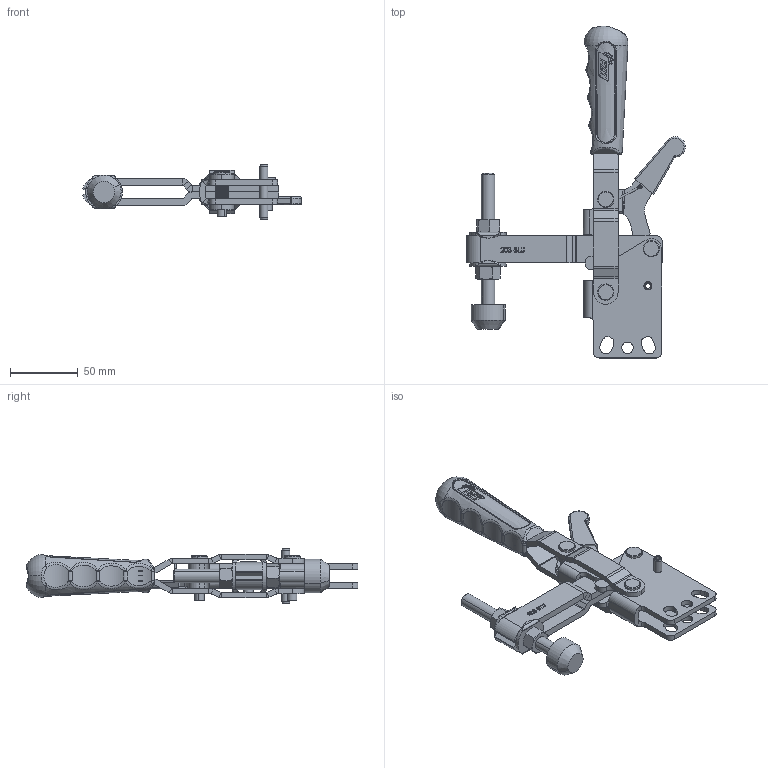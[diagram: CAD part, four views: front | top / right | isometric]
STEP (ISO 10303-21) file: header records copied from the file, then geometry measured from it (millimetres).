
FILE_DESCRIPTION (( 'STEP AP214' ), '1' );
FILE_NAME ('203_BU-K.STEP', '2024-09-09T16:32:41', ( '' ), ( '' ), 'SwSTEP 2.0', 'SolidWorks 2023', '' );
FILE_SCHEMA (( 'AUTOMOTIVE_DESIGN' ));
Length unit declared in the file: millimetre
Products named in the file (19): TTMK_03_00; YAY 203_B-K; FZK_203_B_03A_00; FZK_203_B-K_01_00; M10 PABUÇ; M10 A.K. SOMUN ; FZK_203_B_01_00_YENI; FZK_203_B_03_00; DALDIRMA SAP; Ø6x40 YARIKLI PİM; FZK_203_BU_02_00; 203_BU-K; M10x100 A.K.B; FZK_203_B_06_00; FZK_203_B_04_00; FZK_203_B_07_00; M10 PUL DIN 125; FZK_203_BU_01_00; FZK_203_B_05_00
Assembly tree (24 placements, depth 3):
  203_BU-K
    FZK_203_BU_02_00
    FZK_203_B_07_00  x2
    M10 PABUÇ
    FZK_203_B_03_00
      FZK_203_B_03A_00  x2
    FZK_203_B_05_00
    FZK_203_BU_01_00
    TTMK_03_00
    FZK_203_B_06_00  x2
    FZK_203_B_04_00  x2
    FZK_203_B_01_00_YENI
    M10 PUL DIN 125  x2
    M10x100 A.K.B
    M10 A.K. SOMUN   x2
    Ø6x40 YARIKLI PİM
    YAY 203_B-K
    DALDIRMA SAP
    FZK_203_B-K_01_00
Bounding box: 161.16 x 244.57 x 40 mm (x, y, z)
Volume: 173544.8 mm3; surface area: 94703.9 mm2
Topology: 23 solids, 23 shells, 1582 faces, 4190 edges, 2669 vertices
Faces by surface type: cylinder 879, plane 308, bspline 275, cone 86, sphere 20, torus 14
Entity records: 56943 total; most frequent: CARTESIAN_POINT 31692, ORIENTED_EDGE 5908, DIRECTION 3873, EDGE_CURVE 2954, VERTEX_POINT 1887, AXIS2_PLACEMENT_3D 1432, B_SPLINE_CURVE_WITH_KNOTS 1378, EDGE_LOOP 1215
